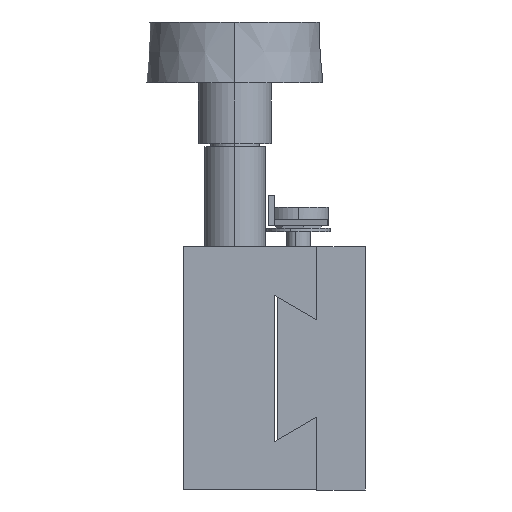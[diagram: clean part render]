
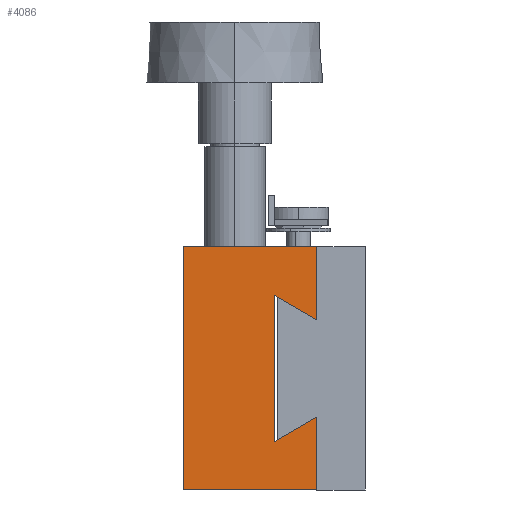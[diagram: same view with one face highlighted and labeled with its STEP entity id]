
A CAD part, left-side view. The second image highlights one B-rep face of the part: STEP entity #4086.
In plain terms, the highlighted planar face has unit normal (-1, 0, 0) as drawn and (1, 0, 0) by its records, which use the part's own axes.
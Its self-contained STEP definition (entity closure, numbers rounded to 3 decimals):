
#680 = LINE ( 'NONE', #690, #880 ) ;
#688 = LINE ( 'NONE', #702, #882 ) ;
#690 = CARTESIAN_POINT ( 'NONE',  ( 20., -20., 30. ) ) ;
#691 = LINE ( 'NONE', #711, #885 ) ;
#692 = DIRECTION ( 'NONE',  ( 0., 0., -1. ) ) ;
#699 = LINE ( 'NONE', #720, #888 ) ;
#702 = CARTESIAN_POINT ( 'NONE',  ( 20., -8., 8. ) ) ;
#703 = DIRECTION ( 'NONE',  ( 0., 1., 0. ) ) ;
#711 = CARTESIAN_POINT ( 'NONE',  ( 20., -12.041, 15. ) ) ;
#712 = DIRECTION ( 'NONE',  ( 0., -0.5, 0.866 ) ) ;
#720 = CARTESIAN_POINT ( 'NONE',  ( 20., 12.041, 15. ) ) ;
#721 = DIRECTION ( 'NONE',  ( 0., 1., 0. ) ) ;
#880 = VECTOR ( 'NONE', #692, 1000. ) ;
#882 = VECTOR ( 'NONE', #703, 1000. ) ;
#885 = VECTOR ( 'NONE', #712, 1000. ) ;
#888 = VECTOR ( 'NONE', #721, 1000. ) ;
#895 = VECTOR ( 'NONE', #1216, 1000. ) ;
#924 = AXIS2_PLACEMENT_3D ( 'NONE', #1131, #1145, #1146 ) ;
#933 = VECTOR ( 'NONE', #1227, 1000. ) ;
#940 = VECTOR ( 'NONE', #1230, 1000. ) ;
#941 = VECTOR ( 'NONE', #1233, 1000. ) ;
#1131 = CARTESIAN_POINT ( 'NONE',  ( 20., 20., 8. ) ) ;
#1142 = FACE_OUTER_BOUND ( 'NONE', #2813, .T. ) ;
#1143 = PLANE ( 'NONE',  #924 ) ;
#1145 = DIRECTION ( 'NONE',  ( -1., 0., 0. ) ) ;
#1146 = DIRECTION ( 'NONE',  ( 0., 1., 0. ) ) ;
#1214 = LINE ( 'NONE', #1215, #895 ) ;
#1215 = CARTESIAN_POINT ( 'NONE',  ( 20., 8., 8. ) ) ;
#1216 = DIRECTION ( 'NONE',  ( 0., -0.5, -0.866 ) ) ;
#1218 = LINE ( 'NONE', #1226, #933 ) ;
#1226 = CARTESIAN_POINT ( 'NONE',  ( 20., 20., 8. ) ) ;
#1227 = DIRECTION ( 'NONE',  ( 0., 1., 0. ) ) ;
#1228 = LINE ( 'NONE', #1229, #940 ) ;
#1229 = CARTESIAN_POINT ( 'NONE',  ( 20., 20., 30. ) ) ;
#1230 = DIRECTION ( 'NONE',  ( 0., 0., 1. ) ) ;
#1231 = LINE ( 'NONE', #1232, #941 ) ;
#1232 = CARTESIAN_POINT ( 'NONE',  ( 20., 20., 30. ) ) ;
#1233 = DIRECTION ( 'NONE',  ( 0., -1., 0. ) ) ;
#1758 = VERTEX_POINT ( 'NONE', #3667 ) ;
#1769 = VERTEX_POINT ( 'NONE', #3663 ) ;
#2387 = VERTEX_POINT ( 'NONE', #4276 ) ;
#2403 = VERTEX_POINT ( 'NONE', #4289 ) ;
#2407 = VERTEX_POINT ( 'NONE', #4292 ) ;
#2442 = VERTEX_POINT ( 'NONE', #4321 ) ;
#2454 = VERTEX_POINT ( 'NONE', #4331 ) ;
#2467 = VERTEX_POINT ( 'NONE', #4341 ) ;
#2813 = EDGE_LOOP ( 'NONE', ( #3532, #3533, #3534, #3535, #3536, #3537, #3538, #3539 ) ) ;
#3532 = ORIENTED_EDGE ( 'NONE', *, *, #4103, .T. ) ;
#3533 = ORIENTED_EDGE ( 'NONE', *, *, #4104, .T. ) ;
#3534 = ORIENTED_EDGE ( 'NONE', *, *, #4046, .T. ) ;
#3535 = ORIENTED_EDGE ( 'NONE', *, *, #4050, .T. ) ;
#3536 = ORIENTED_EDGE ( 'NONE', *, *, #4053, .T. ) ;
#3537 = ORIENTED_EDGE ( 'NONE', *, *, #4056, .T. ) ;
#3538 = ORIENTED_EDGE ( 'NONE', *, *, #4098, .T. ) ;
#3539 = ORIENTED_EDGE ( 'NONE', *, *, #4102, .T. ) ;
#3663 = CARTESIAN_POINT ( 'NONE',  ( 20., 20., 8. ) ) ;
#3667 = CARTESIAN_POINT ( 'NONE',  ( 20., -20., 8. ) ) ;
#4046 = EDGE_CURVE ( 'NONE', #2407, #1758, #680, .T. ) ;
#4050 = EDGE_CURVE ( 'NONE', #1758, #2387, #688, .T. ) ;
#4053 = EDGE_CURVE ( 'NONE', #2387, #2403, #691, .T. ) ;
#4056 = EDGE_CURVE ( 'NONE', #2403, #2442, #699, .T. ) ;
#4086 = ADVANCED_FACE ( 'NONE', ( #1142 ), #1143, .F. ) ;
#4098 = EDGE_CURVE ( 'NONE', #2442, #2467, #1214, .T. ) ;
#4102 = EDGE_CURVE ( 'NONE', #2467, #1769, #1218, .T. ) ;
#4103 = EDGE_CURVE ( 'NONE', #1769, #2454, #1228, .T. ) ;
#4104 = EDGE_CURVE ( 'NONE', #2454, #2407, #1231, .T. ) ;
#4276 = CARTESIAN_POINT ( 'NONE',  ( 20., -8., 8. ) ) ;
#4289 = CARTESIAN_POINT ( 'NONE',  ( 20., -12.041, 15. ) ) ;
#4292 = CARTESIAN_POINT ( 'NONE',  ( 20., -20., 30. ) ) ;
#4321 = CARTESIAN_POINT ( 'NONE',  ( 20., 12.041, 15. ) ) ;
#4331 = CARTESIAN_POINT ( 'NONE',  ( 20., 20., 30. ) ) ;
#4341 = CARTESIAN_POINT ( 'NONE',  ( 20., 8., 8. ) ) ;
